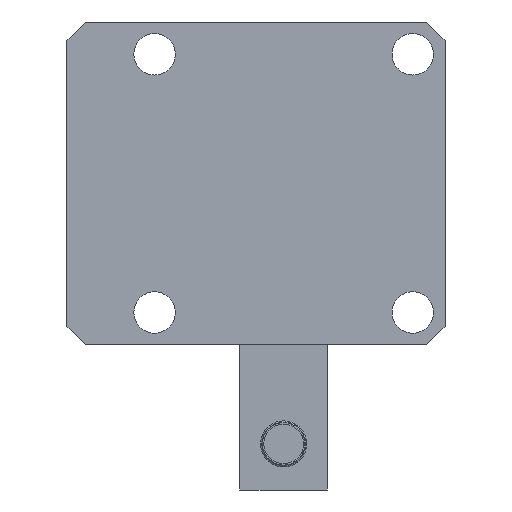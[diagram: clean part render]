
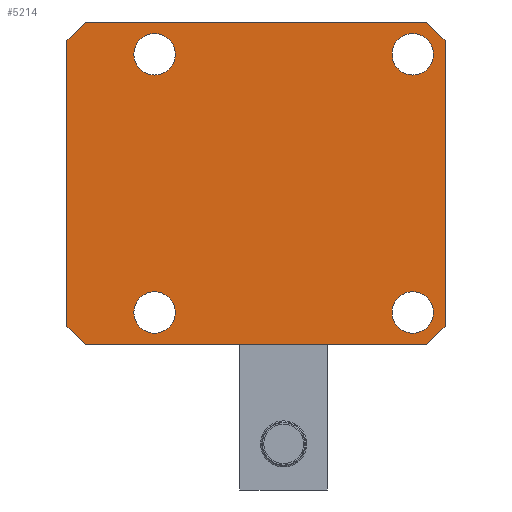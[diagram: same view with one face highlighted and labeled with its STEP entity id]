
A CAD part, front view. The second image highlights one B-rep face of the part: STEP entity #5214.
In plain terms, the highlighted planar face has unit normal (0, -1, 0).
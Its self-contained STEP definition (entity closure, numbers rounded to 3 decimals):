
#236=FACE_BOUND('',#752,.T.);
#237=FACE_BOUND('',#753,.T.);
#238=FACE_BOUND('',#754,.T.);
#239=FACE_BOUND('',#755,.T.);
#315=PLANE('',#5851);
#431=FACE_OUTER_BOUND('',#751,.T.);
#751=EDGE_LOOP('',(#3643,#3644,#3645,#3646,#3647,#3648,#3649,#3650));
#752=EDGE_LOOP('',(#3651));
#753=EDGE_LOOP('',(#3652));
#754=EDGE_LOOP('',(#3653));
#755=EDGE_LOOP('',(#3654));
#1111=LINE('',#8504,#1494);
#1130=LINE('',#8542,#1513);
#1131=LINE('',#8546,#1514);
#1132=LINE('',#8548,#1515);
#1133=LINE('',#8550,#1516);
#1134=LINE('',#8551,#1517);
#1135=LINE('',#8553,#1518);
#1136=LINE('',#8554,#1519);
#1494=VECTOR('',#6672,1000.);
#1513=VECTOR('',#6699,1000.);
#1514=VECTOR('',#6702,1000.);
#1515=VECTOR('',#6703,1000.);
#1516=VECTOR('',#6704,1000.);
#1517=VECTOR('',#6705,1000.);
#1518=VECTOR('',#6706,1000.);
#1519=VECTOR('',#6707,1000.);
#1847=CIRCLE('',#5817,4.5);
#1849=CIRCLE('',#5820,4.5);
#1851=CIRCLE('',#5823,4.5);
#1853=CIRCLE('',#5826,4.5);
#2240=VERTEX_POINT('',#8436);
#2242=VERTEX_POINT('',#8442);
#2244=VERTEX_POINT('',#8448);
#2246=VERTEX_POINT('',#8454);
#2262=VERTEX_POINT('',#8501);
#2263=VERTEX_POINT('',#8503);
#2278=VERTEX_POINT('',#8540);
#2279=VERTEX_POINT('',#8544);
#2280=VERTEX_POINT('',#8545);
#2281=VERTEX_POINT('',#8547);
#2282=VERTEX_POINT('',#8549);
#2283=VERTEX_POINT('',#8552);
#2755=EDGE_CURVE('',#2240,#2240,#1847,.T.);
#2758=EDGE_CURVE('',#2242,#2242,#1849,.T.);
#2761=EDGE_CURVE('',#2244,#2244,#1851,.T.);
#2764=EDGE_CURVE('',#2246,#2246,#1853,.T.);
#2787=EDGE_CURVE('',#2263,#2262,#1111,.T.);
#2807=EDGE_CURVE('',#2262,#2278,#1130,.T.);
#2808=EDGE_CURVE('',#2279,#2280,#1131,.T.);
#2809=EDGE_CURVE('',#2280,#2281,#1132,.T.);
#2810=EDGE_CURVE('',#2281,#2282,#1133,.T.);
#2811=EDGE_CURVE('',#2282,#2263,#1134,.T.);
#2812=EDGE_CURVE('',#2278,#2283,#1135,.T.);
#2813=EDGE_CURVE('',#2283,#2279,#1136,.T.);
#3643=ORIENTED_EDGE('',*,*,#2808,.T.);
#3644=ORIENTED_EDGE('',*,*,#2809,.T.);
#3645=ORIENTED_EDGE('',*,*,#2810,.T.);
#3646=ORIENTED_EDGE('',*,*,#2811,.T.);
#3647=ORIENTED_EDGE('',*,*,#2787,.T.);
#3648=ORIENTED_EDGE('',*,*,#2807,.T.);
#3649=ORIENTED_EDGE('',*,*,#2812,.T.);
#3650=ORIENTED_EDGE('',*,*,#2813,.T.);
#3651=ORIENTED_EDGE('',*,*,#2755,.T.);
#3652=ORIENTED_EDGE('',*,*,#2758,.T.);
#3653=ORIENTED_EDGE('',*,*,#2761,.T.);
#3654=ORIENTED_EDGE('',*,*,#2764,.T.);
#5214=ADVANCED_FACE('',(#431,#236,#237,#238,#239),#315,.T.);
#5817=AXIS2_PLACEMENT_3D('',#8437,#6598,#6599);
#5820=AXIS2_PLACEMENT_3D('',#8443,#6605,#6606);
#5823=AXIS2_PLACEMENT_3D('',#8449,#6612,#6613);
#5826=AXIS2_PLACEMENT_3D('',#8455,#6619,#6620);
#5851=AXIS2_PLACEMENT_3D('',#8543,#6700,#6701);
#6598=DIRECTION('center_axis',(0.,1.,0.));
#6599=DIRECTION('ref_axis',(0.,0.,1.));
#6605=DIRECTION('center_axis',(0.,1.,0.));
#6606=DIRECTION('ref_axis',(0.,0.,1.));
#6612=DIRECTION('center_axis',(0.,1.,0.));
#6613=DIRECTION('ref_axis',(0.,0.,1.));
#6619=DIRECTION('center_axis',(0.,1.,0.));
#6620=DIRECTION('ref_axis',(0.,0.,1.));
#6672=DIRECTION('',(1.,0.,0.));
#6699=DIRECTION('',(0.707,0.,0.707));
#6700=DIRECTION('center_axis',(0.,-1.,0.));
#6701=DIRECTION('ref_axis',(0.,0.,-1.));
#6702=DIRECTION('',(-1.,0.,0.));
#6703=DIRECTION('',(-0.707,0.,-0.707));
#6704=DIRECTION('',(0.,0.,-1.));
#6705=DIRECTION('',(0.707,0.,-0.707));
#6706=DIRECTION('',(0.,0.,1.));
#6707=DIRECTION('',(-0.707,0.,0.707));
#8436=CARTESIAN_POINT('',(28.,4.541,23.5));
#8437=CARTESIAN_POINT('Origin',(28.,4.541,28.));
#8442=CARTESIAN_POINT('',(-28.,4.541,-32.5));
#8443=CARTESIAN_POINT('Origin',(-28.,4.541,-28.));
#8448=CARTESIAN_POINT('',(-28.,4.541,23.5));
#8449=CARTESIAN_POINT('Origin',(-28.,4.541,28.));
#8454=CARTESIAN_POINT('',(28.,4.541,-32.5));
#8455=CARTESIAN_POINT('Origin',(28.,4.541,-28.));
#8501=CARTESIAN_POINT('',(43.,4.541,-35.));
#8503=CARTESIAN_POINT('',(-31.,4.541,-35.));
#8504=CARTESIAN_POINT('',(-31.,4.541,-35.));
#8540=CARTESIAN_POINT('',(47.,4.541,-31.));
#8542=CARTESIAN_POINT('',(43.,4.541,-35.));
#8543=CARTESIAN_POINT('Origin',(-35.,4.541,35.));
#8544=CARTESIAN_POINT('',(43.,4.541,35.));
#8545=CARTESIAN_POINT('',(-31.,4.541,35.));
#8546=CARTESIAN_POINT('',(-35.,4.541,35.));
#8547=CARTESIAN_POINT('',(-35.,4.541,31.));
#8548=CARTESIAN_POINT('',(-31.,4.541,35.));
#8549=CARTESIAN_POINT('',(-35.,4.541,-31.));
#8550=CARTESIAN_POINT('',(-35.,4.541,35.));
#8551=CARTESIAN_POINT('',(-35.,4.541,-31.));
#8552=CARTESIAN_POINT('',(47.,4.541,31.));
#8553=CARTESIAN_POINT('',(47.,4.541,35.));
#8554=CARTESIAN_POINT('',(47.,4.541,31.));
